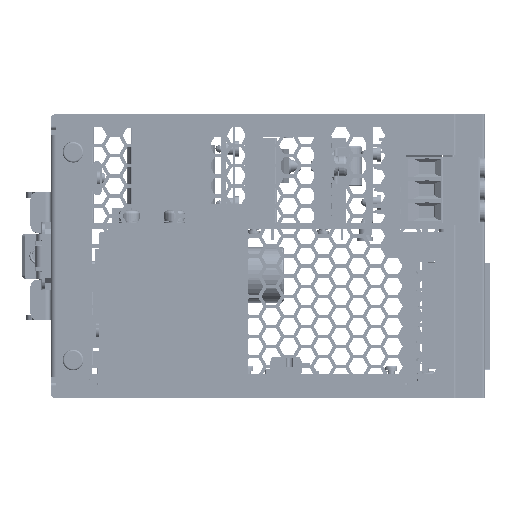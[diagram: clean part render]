
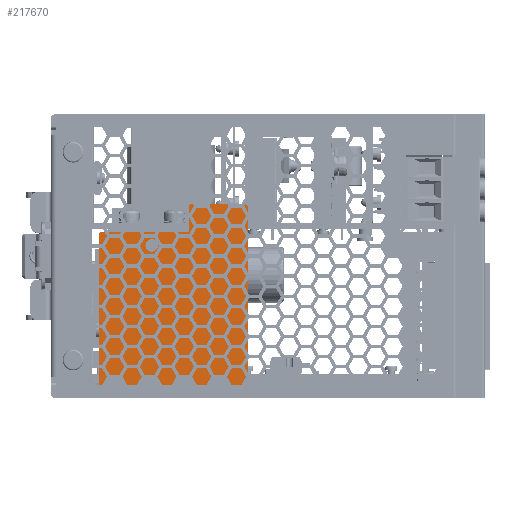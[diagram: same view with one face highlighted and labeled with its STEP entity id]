
A CAD part, front view. The second image highlights one B-rep face of the part: STEP entity #217670.
In plain terms, the highlighted planar face has unit normal (0, -1, 0) as drawn and (0, 0, 1) by its records, which use the part's own axes.
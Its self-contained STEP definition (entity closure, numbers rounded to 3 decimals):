
#216641=DIRECTION('',(1.,0.,0.));
#216642=VECTOR('',#216641,43.);
#216643=CARTESIAN_POINT('',(-49.,0.63,60.5));
#216644=LINE('',#216643,#216642);
#216669=DIRECTION('',(0.,1.,0.));
#216670=VECTOR('',#216669,52.37);
#216671=CARTESIAN_POINT('',(-6.,0.63,60.5));
#216672=LINE('',#216671,#216670);
#216676=CARTESIAN_POINT('',(-33.75,42.03,60.5));
#216677=DIRECTION('',(0.,0.,1.));
#216678=DIRECTION('',(-1.,0.,0.));
#216679=AXIS2_PLACEMENT_3D('',#216676,#216677,#216678);
#216684=CARTESIAN_POINT('',(-33.75,42.03,60.5));
#216685=DIRECTION('',(0.,0.,1.));
#216686=DIRECTION('',(1.,0.,0.));
#216687=AXIS2_PLACEMENT_3D('',#216684,#216685,#216686);
#216692=CARTESIAN_POINT('',(-48.,45.,60.5));
#216693=DIRECTION('',(0.,0.,1.));
#216694=DIRECTION('',(0.,1.,0.));
#216695=AXIS2_PLACEMENT_3D('',#216692,#216693,#216694);
#216700=DIRECTION('',(-1.,0.,0.));
#216701=VECTOR('',#216700,25.);
#216702=CARTESIAN_POINT('',(-23.,46.,60.5));
#216703=LINE('',#216702,#216701);
#216707=DIRECTION('',(0.,-1.,0.));
#216708=VECTOR('',#216707,7.);
#216709=CARTESIAN_POINT('',(-23.,53.,60.5));
#216710=LINE('',#216709,#216708);
#216714=CARTESIAN_POINT('',(-22.,53.,60.5));
#216715=DIRECTION('',(0.,0.,1.));
#216716=DIRECTION('',(0.,1.,0.));
#216717=AXIS2_PLACEMENT_3D('',#216714,#216715,#216716);
#216722=DIRECTION('',(-1.,0.,0.));
#216723=VECTOR('',#216722,15.);
#216724=CARTESIAN_POINT('',(-7.,54.,60.5));
#216725=LINE('',#216724,#216723);
#216729=CARTESIAN_POINT('',(-7.,53.,60.5));
#216730=DIRECTION('',(0.,0.,1.));
#216731=DIRECTION('',(1.,0.,0.));
#216732=AXIS2_PLACEMENT_3D('',#216729,#216730,#216731);
#216737=DIRECTION('',(0.,-1.,0.));
#216738=VECTOR('',#216737,44.37);
#216739=CARTESIAN_POINT('',(-49.,45.,60.5));
#216740=LINE('',#216739,#216738);
#217050=CARTESIAN_POINT('',(-49.,0.63,60.5));
#217051=CARTESIAN_POINT('',(-6.,0.63,60.5));
#217052=VERTEX_POINT('',#217050);
#217053=VERTEX_POINT('',#217051);
#217076=CARTESIAN_POINT('',(-35.55,42.03,60.5));
#217077=CARTESIAN_POINT('',(-31.95,42.03,60.5));
#217078=VERTEX_POINT('',#217076);
#217079=VERTEX_POINT('',#217077);
#217084=CARTESIAN_POINT('',(-23.,46.,60.5));
#217086=VERTEX_POINT('',#217084);
#217132=CARTESIAN_POINT('',(-48.,46.,60.5));
#217133=CARTESIAN_POINT('',(-49.,45.,60.5));
#217134=VERTEX_POINT('',#217132);
#217135=VERTEX_POINT('',#217133);
#217140=CARTESIAN_POINT('',(-22.,54.,60.5));
#217141=CARTESIAN_POINT('',(-23.,53.,60.5));
#217142=VERTEX_POINT('',#217140);
#217143=VERTEX_POINT('',#217141);
#217148=CARTESIAN_POINT('',(-6.,53.,60.5));
#217149=CARTESIAN_POINT('',(-7.,54.,60.5));
#217150=VERTEX_POINT('',#217148);
#217151=VERTEX_POINT('',#217149);
#217642=CARTESIAN_POINT('',(-24.824,0.,60.5));
#217643=DIRECTION('',(0.,0.,1.));
#217644=DIRECTION('',(1.,0.,0.));
#217645=AXIS2_PLACEMENT_3D('',#217642,#217643,#217644);
#217646=PLANE('',#217645);
#217648=ORIENTED_EDGE('',*,*,#217647,.F.);
#217650=ORIENTED_EDGE('',*,*,#217649,.F.);
#217652=ORIENTED_EDGE('',*,*,#217651,.F.);
#217654=ORIENTED_EDGE('',*,*,#217653,.F.);
#217656=ORIENTED_EDGE('',*,*,#217655,.F.);
#217657=ORIENTED_EDGE('',*,*,#217632,.F.);
#217658=ORIENTED_EDGE('',*,*,#217622,.F.);
#217659=ORIENTED_EDGE('',*,*,#217593,.F.);
#217661=ORIENTED_EDGE('',*,*,#217660,.F.);
#217662=EDGE_LOOP('',(#217648,#217650,#217652,#217654,#217656,#217657,#217658,
#217659,#217661));
#217663=FACE_OUTER_BOUND('',#217662,.F.);
#217665=ORIENTED_EDGE('',*,*,#217664,.T.);
#217667=ORIENTED_EDGE('',*,*,#217666,.T.);
#217668=EDGE_LOOP('',(#217665,#217667));
#217669=FACE_BOUND('',#217668,.F.);
#216680=CIRCLE('',#216679,1.8);
#216688=CIRCLE('',#216687,1.8);
#216696=CIRCLE('',#216695,1.);
#216718=CIRCLE('',#216717,1.);
#216733=CIRCLE('',#216732,1.);
#217593=EDGE_CURVE('',#217052,#217053,#216644,.T.);
#217622=EDGE_CURVE('',#217053,#217150,#216672,.T.);
#217632=EDGE_CURVE('',#217150,#217151,#216733,.T.);
#217647=EDGE_CURVE('',#217134,#217135,#216696,.T.);
#217649=EDGE_CURVE('',#217086,#217134,#216703,.T.);
#217651=EDGE_CURVE('',#217143,#217086,#216710,.T.);
#217653=EDGE_CURVE('',#217142,#217143,#216718,.T.);
#217655=EDGE_CURVE('',#217151,#217142,#216725,.T.);
#217660=EDGE_CURVE('',#217135,#217052,#216740,.T.);
#217664=EDGE_CURVE('',#217078,#217079,#216680,.T.);
#217666=EDGE_CURVE('',#217079,#217078,#216688,.T.);
#217670=ADVANCED_FACE('',(#217663,#217669),#217646,.T.);
